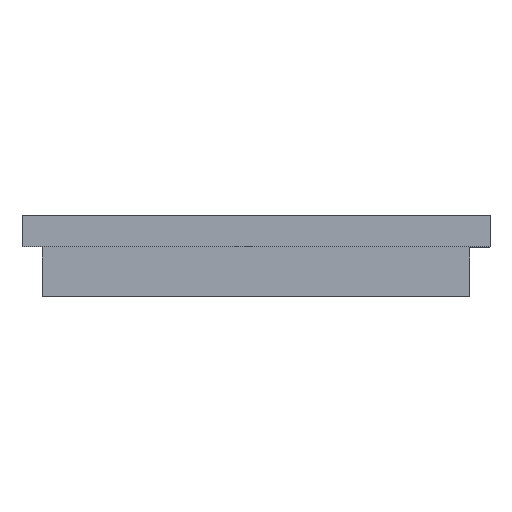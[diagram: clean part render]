
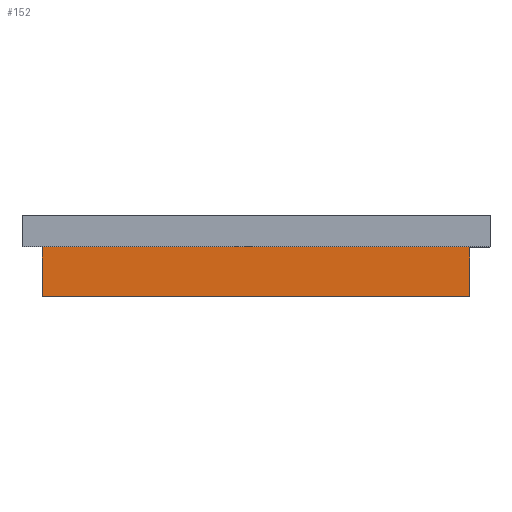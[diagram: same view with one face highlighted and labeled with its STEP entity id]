
A CAD part, front view. The second image highlights one B-rep face of the part: STEP entity #152.
In plain terms, the highlighted planar face has unit normal (0, -1, 0).
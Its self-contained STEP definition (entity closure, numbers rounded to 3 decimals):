
#10 = ORIENTED_EDGE ( 'NONE', *, *, #6711, .F. ) ;
#30 = ORIENTED_EDGE ( 'NONE', *, *, #3759, .F. ) ;
#43 = AXIS2_PLACEMENT_3D ( 'NONE', #6240, #550, #6805 ) ;
#99 = VERTEX_POINT ( 'NONE', #3326 ) ;
#152 = ADVANCED_FACE ( 'NONE', ( #728 ), #1093, .F. ) ;
#436 = ORIENTED_EDGE ( 'NONE', *, *, #2942, .T. ) ;
#520 = LINE ( 'NONE', #6042, #3929 ) ;
#550 = DIRECTION ( 'NONE',  ( 0., 1., 0. ) ) ;
#728 = FACE_OUTER_BOUND ( 'NONE', #815, .T. ) ;
#815 = EDGE_LOOP ( 'NONE', ( #436, #10, #30, #1307 ) ) ;
#1093 = PLANE ( 'NONE',  #43 ) ;
#1099 = DIRECTION ( 'NONE',  ( 1., 0., 0. ) ) ;
#1201 = CARTESIAN_POINT ( 'NONE',  ( 6.547, -6.644, 14.5 ) ) ;
#1222 = DIRECTION ( 'NONE',  ( 0., 0., -1. ) ) ;
#1307 = ORIENTED_EDGE ( 'NONE', *, *, #4194, .T. ) ;
#1638 = CARTESIAN_POINT ( 'NONE',  ( -0.303, -6.644, 14.5 ) ) ;
#1970 = CARTESIAN_POINT ( 'NONE',  ( -7.153, -6.644, 12.9 ) ) ;
#2316 = DIRECTION ( 'NONE',  ( 0., 0., -1. ) ) ;
#2329 = CARTESIAN_POINT ( 'NONE',  ( -7.153, -6.644, 14.5 ) ) ;
#2569 = CARTESIAN_POINT ( 'NONE',  ( 6.547, -6.644, 12.9 ) ) ;
#2942 = EDGE_CURVE ( 'NONE', #5679, #4963, #520, .T. ) ;
#3326 = CARTESIAN_POINT ( 'NONE',  ( -7.153, -6.644, 14.5 ) ) ;
#3631 = LINE ( 'NONE', #1638, #7049 ) ;
#3710 = CARTESIAN_POINT ( 'NONE',  ( 6.547, -6.644, 14.5 ) ) ;
#3759 = EDGE_CURVE ( 'NONE', #99, #7076, #3631, .T. ) ;
#3929 = VECTOR ( 'NONE', #1099, 1000. ) ;
#4194 = EDGE_CURVE ( 'NONE', #99, #5679, #5819, .T. ) ;
#4963 = VERTEX_POINT ( 'NONE', #2569 ) ;
#5123 = LINE ( 'NONE', #1201, #6368 ) ;
#5679 = VERTEX_POINT ( 'NONE', #1970 ) ;
#5819 = LINE ( 'NONE', #2329, #7044 ) ;
#6042 = CARTESIAN_POINT ( 'NONE',  ( -0.303, -6.644, 12.9 ) ) ;
#6240 = CARTESIAN_POINT ( 'NONE',  ( -0.303, -6.644, 14.5 ) ) ;
#6368 = VECTOR ( 'NONE', #2316, 1000. ) ;
#6608 = DIRECTION ( 'NONE',  ( 1., 0., 0. ) ) ;
#6711 = EDGE_CURVE ( 'NONE', #7076, #4963, #5123, .T. ) ;
#6805 = DIRECTION ( 'NONE',  ( 1., 0., 0. ) ) ;
#7044 = VECTOR ( 'NONE', #1222, 1000. ) ;
#7049 = VECTOR ( 'NONE', #6608, 1000. ) ;
#7076 = VERTEX_POINT ( 'NONE', #3710 ) ;
